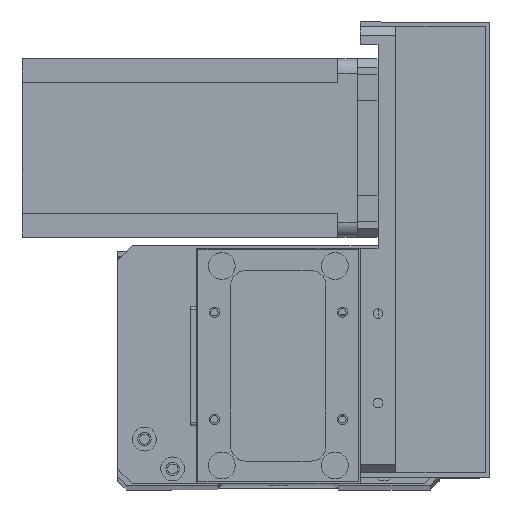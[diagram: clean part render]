
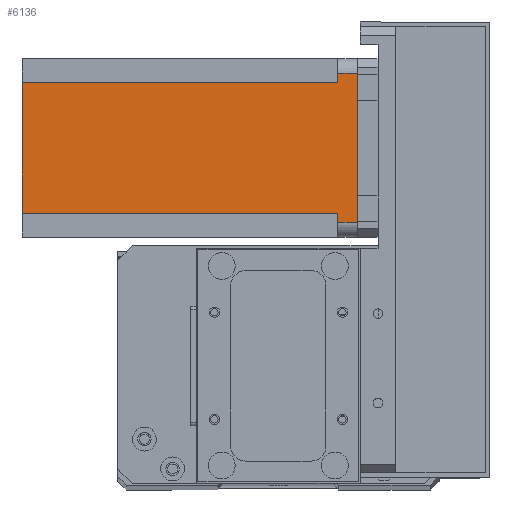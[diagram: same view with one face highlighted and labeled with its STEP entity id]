
A CAD part, top view. The second image highlights one B-rep face of the part: STEP entity #6136.
In plain terms, the highlighted planar face has unit normal (0, 0, 1) as drawn and (0, 1, 0) by its records, which use the part's own axes.
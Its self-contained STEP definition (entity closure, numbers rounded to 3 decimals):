
#627 = LINE ( 'NONE', #17086, #29949 ) ;
#688 = DIRECTION ( 'NONE',  ( 0., 0., 1. ) ) ;
#849 = CARTESIAN_POINT ( 'NONE',  ( 52., 60., -6.5 ) ) ;
#891 = ORIENTED_EDGE ( 'NONE', *, *, #2969, .F. ) ;
#949 = ORIENTED_EDGE ( 'NONE', *, *, #28699, .T. ) ;
#1464 = VERTEX_POINT ( 'NONE', #28985 ) ;
#1698 = DIRECTION ( 'NONE',  ( -1., 0., 0. ) ) ;
#2911 = ORIENTED_EDGE ( 'NONE', *, *, #16979, .F. ) ;
#2969 = EDGE_CURVE ( 'NONE', #25690, #24503, #25909, .T. ) ;
#4040 = CARTESIAN_POINT ( 'NONE',  ( 5., 60., -112.5 ) ) ;
#4142 = EDGE_CURVE ( 'NONE', #21093, #25690, #15336, .T. ) ;
#5022 = VERTEX_POINT ( 'NONE', #22722 ) ;
#5585 = DIRECTION ( 'NONE',  ( 0., 0., -1. ) ) ;
#6136 = ADVANCED_FACE ( 'NONE', ( #25360 ), #12205, .T. ) ;
#6251 = DIRECTION ( 'NONE',  ( 0., 0., 1. ) ) ;
#6598 = CARTESIAN_POINT ( 'NONE',  ( 5., 60., -6.5 ) ) ;
#7589 = EDGE_CURVE ( 'NONE', #14095, #23370, #27423, .T. ) ;
#7702 = CARTESIAN_POINT ( 'NONE',  ( 8., 60., -6.5 ) ) ;
#7862 = CARTESIAN_POINT ( 'NONE',  ( 52., 60., -112.5 ) ) ;
#8205 = EDGE_LOOP ( 'NONE', ( #11548, #949, #891, #18205, #26238, #2911, #25959, #20950 ) ) ;
#8987 = VECTOR ( 'NONE', #6251, 1000. ) ;
#9211 = VECTOR ( 'NONE', #21713, 1000. ) ;
#9431 = CARTESIAN_POINT ( 'NONE',  ( 0., 60., -112.5 ) ) ;
#9733 = DIRECTION ( 'NONE',  ( 0., 0., -1. ) ) ;
#9885 = EDGE_CURVE ( 'NONE', #1464, #23370, #17473, .T. ) ;
#11131 = VECTOR ( 'NONE', #23266, 1000. ) ;
#11548 = ORIENTED_EDGE ( 'NONE', *, *, #9885, .F. ) ;
#11620 = DIRECTION ( 'NONE',  ( -1., 0., 0. ) ) ;
#12144 = CARTESIAN_POINT ( 'NONE',  ( 52., 60., -112.5 ) ) ;
#12205 = PLANE ( 'NONE',  #14345 ) ;
#12466 = CARTESIAN_POINT ( 'NONE',  ( 55., 60., -6.5 ) ) ;
#13612 = VECTOR ( 'NONE', #26577, 1000. ) ;
#14095 = VERTEX_POINT ( 'NONE', #6598 ) ;
#14253 = EDGE_CURVE ( 'NONE', #21093, #21186, #17243, .T. ) ;
#14345 = AXIS2_PLACEMENT_3D ( 'NONE', #19046, #14504, #688 ) ;
#14504 = DIRECTION ( 'NONE',  ( 0., 1., 0. ) ) ;
#15035 = CARTESIAN_POINT ( 'NONE',  ( 52., 60., -6.5 ) ) ;
#15336 = LINE ( 'NONE', #7862, #9211 ) ;
#15512 = CARTESIAN_POINT ( 'NONE',  ( 0., 60., 0. ) ) ;
#16184 = LINE ( 'NONE', #7702, #21655 ) ;
#16587 = LINE ( 'NONE', #21246, #22775 ) ;
#16979 = EDGE_CURVE ( 'NONE', #5022, #21186, #16587, .T. ) ;
#17086 = CARTESIAN_POINT ( 'NONE',  ( 55., 60., -112.5 ) ) ;
#17243 = LINE ( 'NONE', #9431, #11131 ) ;
#17473 = LINE ( 'NONE', #15512, #21850 ) ;
#18205 = ORIENTED_EDGE ( 'NONE', *, *, #4142, .F. ) ;
#19046 = CARTESIAN_POINT ( 'NONE',  ( 0., 60., -112.5 ) ) ;
#20950 = ORIENTED_EDGE ( 'NONE', *, *, #7589, .T. ) ;
#21093 = VERTEX_POINT ( 'NONE', #12144 ) ;
#21186 = VERTEX_POINT ( 'NONE', #23955 ) ;
#21246 = CARTESIAN_POINT ( 'NONE',  ( 8., 60., -112.5 ) ) ;
#21655 = VECTOR ( 'NONE', #11620, 1000. ) ;
#21713 = DIRECTION ( 'NONE',  ( 0., 0., 1. ) ) ;
#21850 = VECTOR ( 'NONE', #1698, 1000. ) ;
#22722 = CARTESIAN_POINT ( 'NONE',  ( 8., 60., -6.5 ) ) ;
#22775 = VECTOR ( 'NONE', #9733, 1000. ) ;
#23266 = DIRECTION ( 'NONE',  ( -1., 0., 0. ) ) ;
#23370 = VERTEX_POINT ( 'NONE', #29141 ) ;
#23955 = CARTESIAN_POINT ( 'NONE',  ( 8., 60., -112.5 ) ) ;
#24503 = VERTEX_POINT ( 'NONE', #12466 ) ;
#25360 = FACE_OUTER_BOUND ( 'NONE', #8205, .T. ) ;
#25690 = VERTEX_POINT ( 'NONE', #849 ) ;
#25909 = LINE ( 'NONE', #15035, #13612 ) ;
#25959 = ORIENTED_EDGE ( 'NONE', *, *, #27754, .T. ) ;
#26238 = ORIENTED_EDGE ( 'NONE', *, *, #14253, .T. ) ;
#26577 = DIRECTION ( 'NONE',  ( 1., 0., 0. ) ) ;
#27423 = LINE ( 'NONE', #4040, #8987 ) ;
#27754 = EDGE_CURVE ( 'NONE', #5022, #14095, #16184, .T. ) ;
#28699 = EDGE_CURVE ( 'NONE', #1464, #24503, #627, .T. ) ;
#28985 = CARTESIAN_POINT ( 'NONE',  ( 55., 60., 0. ) ) ;
#29141 = CARTESIAN_POINT ( 'NONE',  ( 5., 60., 0. ) ) ;
#29949 = VECTOR ( 'NONE', #5585, 1000. ) ;
